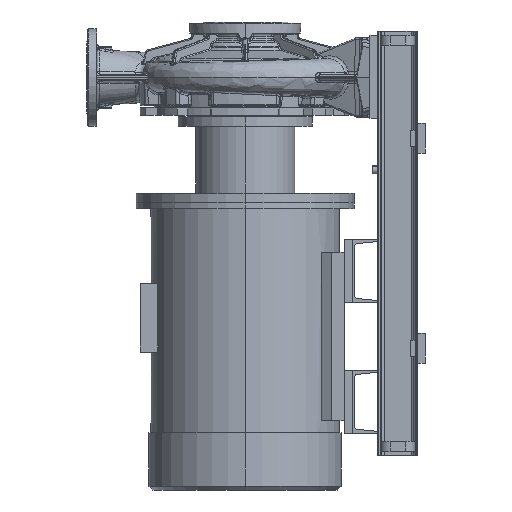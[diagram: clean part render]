
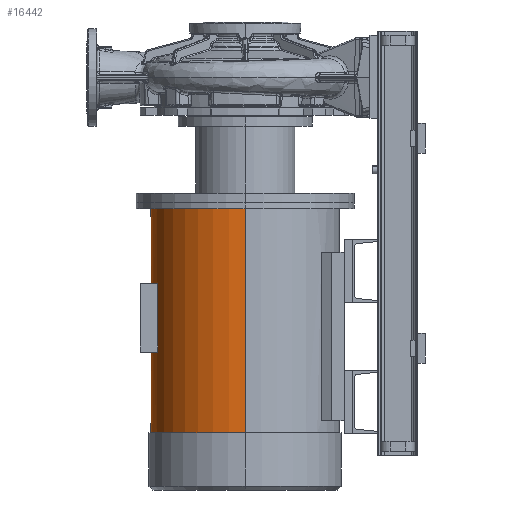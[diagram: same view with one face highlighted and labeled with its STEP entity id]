
A CAD part, left-side view. The second image highlights one B-rep face of the part: STEP entity #16442.
In plain terms, the highlighted cylindrical face has radius 237.5 mm (diameter 475 mm), a partial arc.
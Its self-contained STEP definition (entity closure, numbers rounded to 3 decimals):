
#1257 = VECTOR ( 'NONE', #54916, 1000. ) ;
#1827 = EDGE_LOOP ( 'NONE', ( #36766, #74277, #32101, #97178 ) ) ;
#4127 = FACE_BOUND ( 'NONE', #1827, .T. ) ;
#6566 = EDGE_CURVE ( 'NONE', #98849, #96705, #112758, .T. ) ;
#9531 = CIRCLE ( 'NONE', #64647, 237.5 ) ;
#10043 = DIRECTION ( 'NONE',  ( -1., 0., 0. ) ) ;
#10045 = CARTESIAN_POINT ( 'NONE',  ( 0., 0., -1040.8 ) ) ;
#10881 = DIRECTION ( 'NONE',  ( 0., 0., 1. ) ) ;
#15468 = VERTEX_POINT ( 'NONE', #61266 ) ;
#15763 = DIRECTION ( 'NONE',  ( 0., 0., -1. ) ) ;
#16442 = ADVANCED_FACE ( 'NONE', ( #4127, #37800 ), #79084, .T. ) ;
#16891 = VERTEX_POINT ( 'NONE', #103160 ) ;
#20405 = AXIS2_PLACEMENT_3D ( 'NONE', #10045, #69108, #49826 ) ;
#21250 = EDGE_CURVE ( 'NONE', #16891, #24620, #27329, .T. ) ;
#22160 = CARTESIAN_POINT ( 'NONE',  ( -237.5, 0., -1040.8 ) ) ;
#23799 = DIRECTION ( 'NONE',  ( 1., 0., 0. ) ) ;
#24620 = VERTEX_POINT ( 'NONE', #36699 ) ;
#26934 = AXIS2_PLACEMENT_3D ( 'NONE', #58806, #10881, #10043 ) ;
#27116 = AXIS2_PLACEMENT_3D ( 'NONE', #86190, #35719, #105379 ) ;
#27329 = LINE ( 'NONE', #123694, #1257 ) ;
#30776 = EDGE_CURVE ( 'NONE', #52002, #16891, #9531, .T. ) ;
#31417 = CARTESIAN_POINT ( 'NONE',  ( 0., 0., -330.8 ) ) ;
#31927 = CIRCLE ( 'NONE', #27116, 237.5 ) ;
#32012 = VERTEX_POINT ( 'NONE', #55019 ) ;
#32101 = ORIENTED_EDGE ( 'NONE', *, *, #38243, .T. ) ;
#35719 = DIRECTION ( 'NONE',  ( 0., 0., -1. ) ) ;
#36699 = CARTESIAN_POINT ( 'NONE',  ( 237.5, 0., -896.8 ) ) ;
#36766 = ORIENTED_EDGE ( 'NONE', *, *, #6566, .T. ) ;
#36773 = LINE ( 'NONE', #22160, #39850 ) ;
#37800 = FACE_OUTER_BOUND ( 'NONE', #51560, .T. ) ;
#38243 = EDGE_CURVE ( 'NONE', #32012, #121234, #47722, .T. ) ;
#39850 = VECTOR ( 'NONE', #92215, 1000. ) ;
#44357 = ORIENTED_EDGE ( 'NONE', *, *, #21250, .T. ) ;
#44937 = CARTESIAN_POINT ( 'NONE',  ( 87., 220.992, -518.8 ) ) ;
#47722 = LINE ( 'NONE', #102232, #121135 ) ;
#49009 = CARTESIAN_POINT ( 'NONE',  ( -87., 220.992, -518.8 ) ) ;
#49826 = DIRECTION ( 'NONE',  ( -1., 0., 0. ) ) ;
#51115 = DIRECTION ( 'NONE',  ( 0., 0., -1. ) ) ;
#51560 = EDGE_LOOP ( 'NONE', ( #86234, #44357, #106536, #53493 ) ) ;
#52002 = VERTEX_POINT ( 'NONE', #117474 ) ;
#52153 = CARTESIAN_POINT ( 'NONE',  ( -87., 220.992, -1040.8 ) ) ;
#52892 = EDGE_CURVE ( 'NONE', #96705, #32012, #75487, .T. ) ;
#53493 = ORIENTED_EDGE ( 'NONE', *, *, #98542, .F. ) ;
#54916 = DIRECTION ( 'NONE',  ( 0., 0., -1. ) ) ;
#55019 = CARTESIAN_POINT ( 'NONE',  ( 87., 220.992, -692.8 ) ) ;
#58806 = CARTESIAN_POINT ( 'NONE',  ( 0., 0., -518.8 ) ) ;
#59037 = EDGE_CURVE ( 'NONE', #15468, #24620, #31927, .T. ) ;
#61266 = CARTESIAN_POINT ( 'NONE',  ( -237.5, 0., -896.8 ) ) ;
#64647 = AXIS2_PLACEMENT_3D ( 'NONE', #31417, #51115, #119451 ) ;
#66189 = CARTESIAN_POINT ( 'NONE',  ( -87., 220.992, -692.8 ) ) ;
#69108 = DIRECTION ( 'NONE',  ( 0., 0., -1. ) ) ;
#71964 = DIRECTION ( 'NONE',  ( 0., 0., 1. ) ) ;
#74277 = ORIENTED_EDGE ( 'NONE', *, *, #52892, .T. ) ;
#75487 = CIRCLE ( 'NONE', #107413, 237.5 ) ;
#79084 = CYLINDRICAL_SURFACE ( 'NONE', #20405, 237.5 ) ;
#84566 = EDGE_CURVE ( 'NONE', #121234, #98849, #97324, .T. ) ;
#86190 = CARTESIAN_POINT ( 'NONE',  ( 0., 0., -896.8 ) ) ;
#86234 = ORIENTED_EDGE ( 'NONE', *, *, #30776, .T. ) ;
#86801 = VECTOR ( 'NONE', #15763, 1000. ) ;
#92215 = DIRECTION ( 'NONE',  ( 0., 0., -1. ) ) ;
#92598 = DIRECTION ( 'NONE',  ( 0., 0., -1. ) ) ;
#96705 = VERTEX_POINT ( 'NONE', #66189 ) ;
#97178 = ORIENTED_EDGE ( 'NONE', *, *, #84566, .T. ) ;
#97324 = CIRCLE ( 'NONE', #26934, 237.5 ) ;
#98542 = EDGE_CURVE ( 'NONE', #52002, #15468, #36773, .T. ) ;
#98849 = VERTEX_POINT ( 'NONE', #49009 ) ;
#101598 = CARTESIAN_POINT ( 'NONE',  ( 0., 0., -692.8 ) ) ;
#102232 = CARTESIAN_POINT ( 'NONE',  ( 87., 220.992, -1040.8 ) ) ;
#103160 = CARTESIAN_POINT ( 'NONE',  ( 237.5, 0., -330.8 ) ) ;
#105379 = DIRECTION ( 'NONE',  ( -1., 0., 0. ) ) ;
#106536 = ORIENTED_EDGE ( 'NONE', *, *, #59037, .F. ) ;
#107413 = AXIS2_PLACEMENT_3D ( 'NONE', #101598, #92598, #23799 ) ;
#112758 = LINE ( 'NONE', #52153, #86801 ) ;
#117474 = CARTESIAN_POINT ( 'NONE',  ( -237.5, 0., -330.8 ) ) ;
#119451 = DIRECTION ( 'NONE',  ( -1., 0., 0. ) ) ;
#121135 = VECTOR ( 'NONE', #71964, 1000. ) ;
#121234 = VERTEX_POINT ( 'NONE', #44937 ) ;
#123694 = CARTESIAN_POINT ( 'NONE',  ( 237.5, 0., -1040.8 ) ) ;
